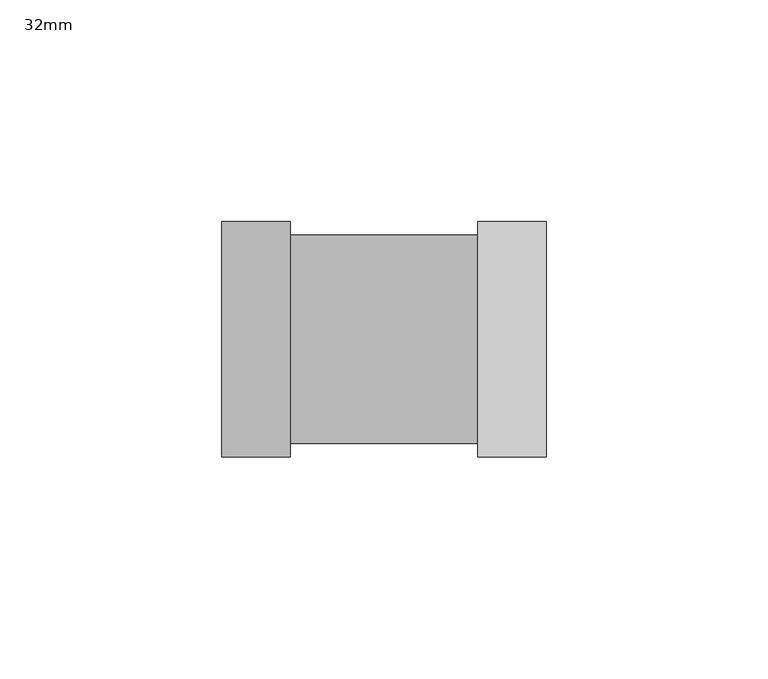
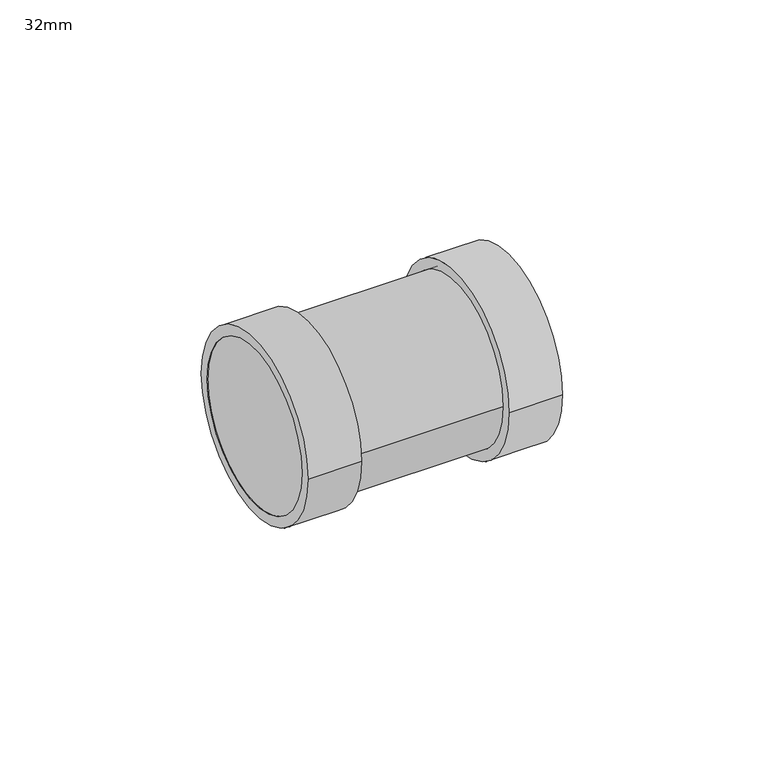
"""IFC4 building model written with IfcOpenShell, lengths in millimetres: pipe fitting geometry, PipeFitting_HTA_CPVC_StraightCouplingsThermocouples : 32mm."""

from ifc_helpers import new_model, si_unit, point, frame, origin, origin_2d, place, context, project, spatial, circle_curve, trimmed, segment, composite_curve, outline, extrude, source, transform, mapped, element, save


def pipe_fitting_32mm_82b8e66e(model_context):
    return source(origin(), model_context, "Body", "SweptSolid", [
        extrude(outline(composite_curve([segment(trimmed(circle_curve(origin_2d(), 26.5), [point((-26.5, 0.0))], [point((26.5, 0.0))], False, "CARTESIAN"), True, "CONTINUOUS"), segment(trimmed(circle_curve(origin_2d(), 26.5), [point((26.5, 0.0))], [point((-26.5, 0.0))], False, "CARTESIAN"), True, "CONTINUOUS")], self_intersect=False), holes=[composite_curve([segment(trimmed(circle_curve(origin_2d(), 23.5), [point((-23.5, 0.0))], [point((23.5, 0.0))], True, "CARTESIAN"), True, "CONTINUOUS"), segment(trimmed(circle_curve(origin_2d(), 23.5), [point((23.5, 0.0))], [point((-23.5, 0.0))], True, "CARTESIAN"), True, "CONTINUOUS")], self_intersect=False)]), frame((-36.5, 0.0, 0.0), z_axis=(1.0, 0.0, 0.0), x_axis=(0.0, 1.0, 0.0)), (0.0, 0.0, 1.0), 15.3333333),
        extrude(outline(composite_curve([segment(trimmed(circle_curve(origin_2d(), 26.5), [point((26.5, 0.0))], [point((-26.5, 0.0))], False, "CARTESIAN"), True, "CONTINUOUS"), segment(trimmed(circle_curve(origin_2d(), 26.5), [point((-26.5, 0.0))], [point((26.5, 0.0))], False, "CARTESIAN"), True, "CONTINUOUS")], self_intersect=False), holes=[composite_curve([segment(trimmed(circle_curve(origin_2d(), 23.5), [point((23.5, 0.0))], [point((-23.5, 0.0))], True, "CARTESIAN"), True, "CONTINUOUS"), segment(trimmed(circle_curve(origin_2d(), 23.5), [point((-23.5, 0.0))], [point((23.5, 0.0))], True, "CARTESIAN"), True, "CONTINUOUS")], self_intersect=False)]), frame((21.1666667, 0.0, 0.0), z_axis=(1.0, 0.0, 0.0), x_axis=(0.0, 1.0, 0.0)), (0.0, 0.0, 1.0), 15.3333333),
        extrude(outline(composite_curve([segment(trimmed(circle_curve(origin_2d(), 23.5), [point((-23.5, 0.0))], [point((23.5, 0.0))], False, "CARTESIAN"), True, "CONTINUOUS"), segment(trimmed(circle_curve(origin_2d(), 23.5), [point((23.5, 0.0))], [point((-23.5, 0.0))], False, "CARTESIAN"), True, "CONTINUOUS")], self_intersect=False)), frame((-36.5, 0.0, 0.0), z_axis=(1.0, 0.0, 0.0), x_axis=(0.0, 1.0, 0.0)), (0.0, 0.0, 1.0), 73.0),
    ])


if __name__ == "__main__":
    model = new_model("IFC4")
    model_context = context("Model", 3, world=origin())
    ifc_project = project(units=[si_unit("LENGTHUNIT", "METRE", prefix="MILLI")], contexts=[model_context])
    site = spatial("IfcSite", under=ifc_project)
    building = spatial("IfcBuilding", under=site)
    placement = place(None, origin())
    pipe_fitting_32mm_shape = pipe_fitting_32mm_82b8e66e(model_context)
    element("IfcPipeFitting", 1, ObjectType="PipeFitting_HTA_CPVC_StraightCouplingsThermocouples : 32mm", at=placement, inside=building, context=model_context, shape_type="MappedRepresentation", body=[
        mapped(pipe_fitting_32mm_shape, transform((0.0, 0.0, 0.0), x_axis=(1.0, 0.0, 0.0), y_axis=(0.0, 1.0, 0.0), z_axis=(0.0, 0.0, 1.0))),
    ])
    save(model, "model.ifc")
